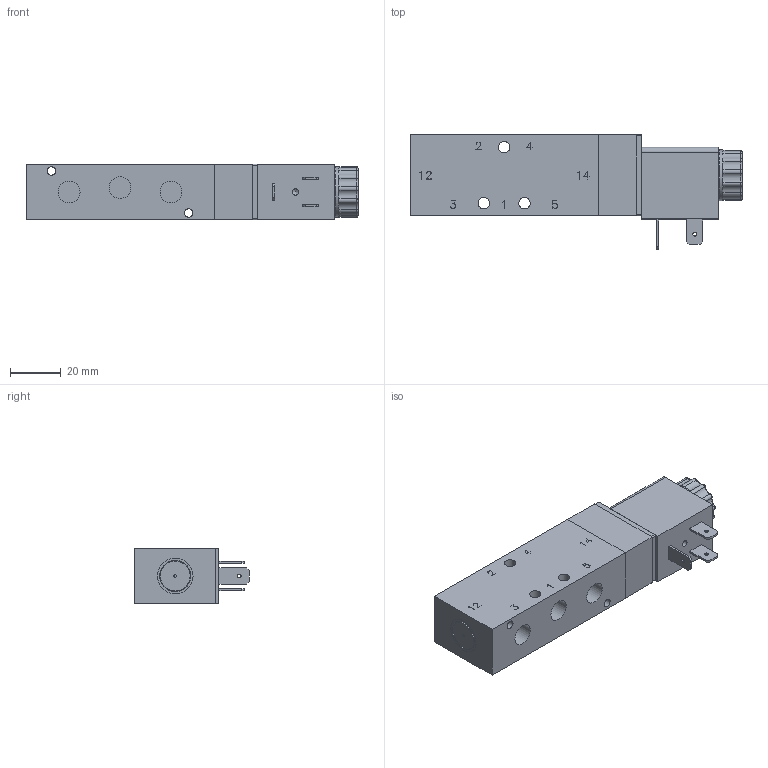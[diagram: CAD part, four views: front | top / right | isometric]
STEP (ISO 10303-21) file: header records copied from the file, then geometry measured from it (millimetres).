
FILE_DESCRIPTION (( 'STEP AP214' ), '1' );
FILE_NAME ('ICK-09-511-HN-F42_Airtec.step', '2019-01-08T09:00:13', ( '' ), ( '' ), 'SwSTEP 2.0', 'SolidWorks 2010', '' );
FILE_SCHEMA (( 'AUTOMOTIVE_DESIGN' ));
Length unit declared in the file: millimetre
Products named in the file (3): Volumenkörper3; Volumenkörper1; ICK-09-511-HN-F42_Airtec
Assembly tree (2 placements, depth 2):
  ICK-09-511-HN-F42_Airtec
    Volumenkörper3
    Volumenkörper1
Bounding box: 130.6 x 45.2 x 22 mm (x, y, z)
Volume: 80755.3 mm3; surface area: 22503.2 mm2
Topology: 2 solids, 2 shells, 702 faces, 1856 edges, 1209 vertices
Faces by surface type: plane 495, cylinder 91, cone 53, torus 49, bspline 14
Full cylindrical faces by diameter (mm): 1 x1, 1.5 x3, 2.459 x1, 2.693 x4, 3.3 x2, 3.4 x4, 4.5 x3, 5.5 x4, 8 x1, 8.15 x1, 8.57 x5, 9.04 x2, 9.1 x1, 12 x1, 14 x1, 15 x1, 16.6 x1, 20 x1
Entity records: 26140 total; most frequent: CARTESIAN_POINT 5847, ORIENTED_EDGE 3566, DIRECTION 3354, EDGE_CURVE 1783, LINE 1314, VECTOR 1314, VERTEX_POINT 1195, AXIS2_PLACEMENT_3D 1020
